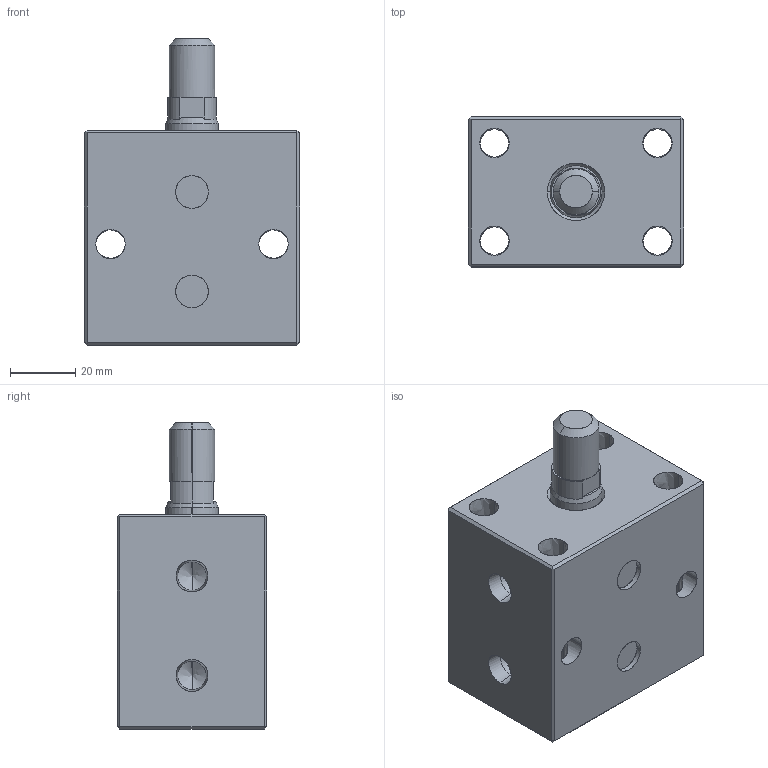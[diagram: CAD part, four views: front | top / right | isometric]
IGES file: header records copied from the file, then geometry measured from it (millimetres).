
Start section: SolidWorks IGES file using analytic representation for surfaces
Global section: file name: E:\ALL-SSVT-BLOCK\IGSMODEL-25-BORE\BC04-25-16-M.IGS; native system: SolidWorks 2019; preprocessor: SolidWorks 2019; author: SSVT; date: 210824.091941; units: millimetre
Bounding box: 66 x 46 x 94 mm (x, y, z)
Surface area: 35339.3 mm2 (no closed solid volume)
Topology: 0 solids, 0 shells, 96 faces, 1705 edges, 1701 vertices
Faces by surface type: revolution 59, bspline 37
